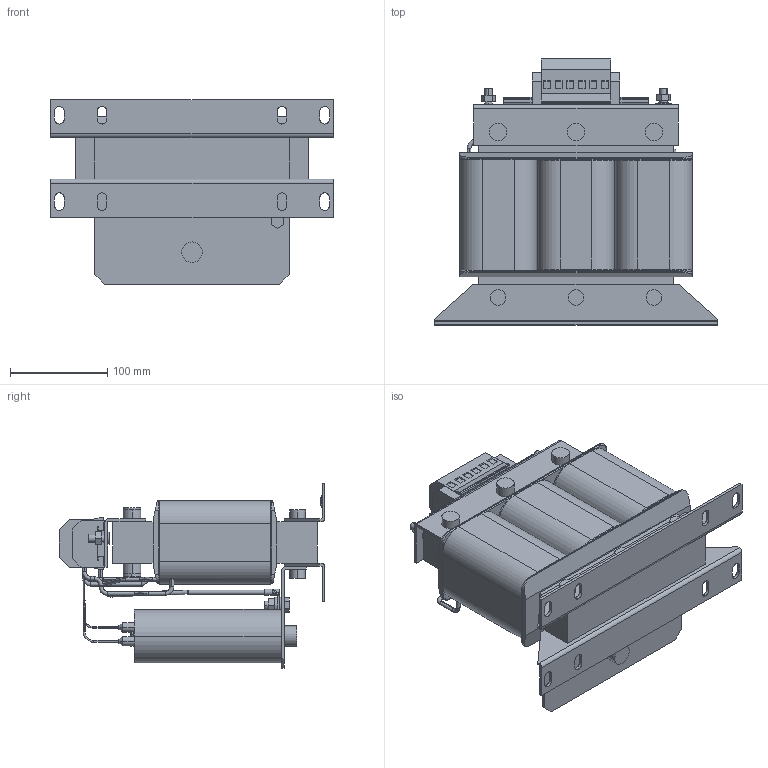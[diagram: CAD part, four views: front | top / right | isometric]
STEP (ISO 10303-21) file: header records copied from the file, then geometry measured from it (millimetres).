
FILE_DESCRIPTION (( 'STEP AP214' ), '1' );
FILE_NAME ('16Z1G04-1001_Kundenmodell.STEP', '2024-06-05T09:37:42', ( '' ), ( '' ), 'SwSTEP 2.0', 'SolidWorks 2022', '' );
FILE_SCHEMA (( 'AUTOMOTIVE_DESIGN' ));
Length unit declared in the file: millimetre
Products named in the file (1): 16Z1G04-1001_Kundenmodell
Bounding box: 291 x 273.5 x 189.8 mm (x, y, z)
Volume: 3966633.1 mm3; surface area: 390237.4 mm2
Topology: 1 solids, 3 shells, 768 faces, 2022 edges, 1309 vertices
Faces by surface type: plane 385, cylinder 259, torus 80, bspline 38, cone 6
Entity records: 27374 total; most frequent: CARTESIAN_POINT 7939, ORIENTED_EDGE 4044, DIRECTION 3994, EDGE_CURVE 2022, AXIS2_PLACEMENT_3D 1449, VERTEX_POINT 1309, VECTOR 1096, LINE 1096
